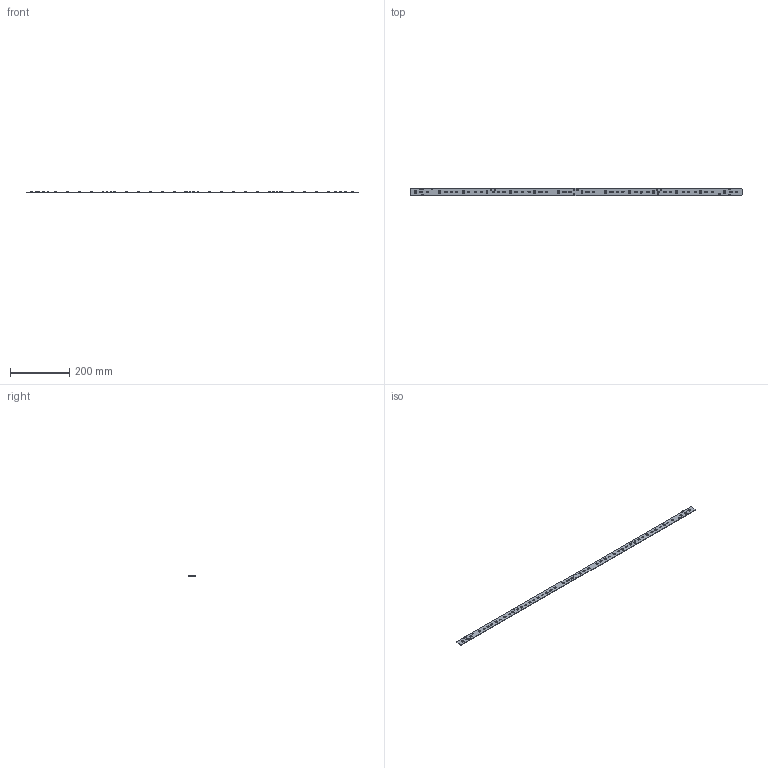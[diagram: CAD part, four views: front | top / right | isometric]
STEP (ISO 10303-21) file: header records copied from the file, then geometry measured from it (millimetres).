
FILE_DESCRIPTION((''),'2;1');
FILE_NAME('16208830_LLE-24X1119-LVD-ADV1','2019-07-24T10:39:01',('bernhard.fink'),(''),'CREO PARAMETRIC BY PTC INC, 2019030','CREO PARAMETRIC BY PTC INC, 2019030','');
FILE_SCHEMA(('AUTOMOTIVE_DESIGN { 1 0 10303 214 1 1 1 1 }'));
Products named in the file (1): 16208830_LLE-24X1119-LVD-ADV1
Bounding box: 1119 x 23.6 x 4.2 mm (x, y, z)
Volume: 43505.2 mm3; surface area: 60351.7 mm2
Topology: 127 solids, 131 shells, 2131 faces, 5446 edges, 3508 vertices
Faces by surface type: plane 1415, cylinder 516, bspline 172, cone 16, torus 12
Entity records: 100878 total; most frequent: CARTESIAN_POINT 19787, ORIENTED_EDGE 10480, DIRECTION 9679, PRESENTATION_STYLE_ASSIGNMENT 7413, STYLED_ITEM 5588, CURVE_STYLE 5457, EDGE_CURVE 5446, VECTOR 3942
